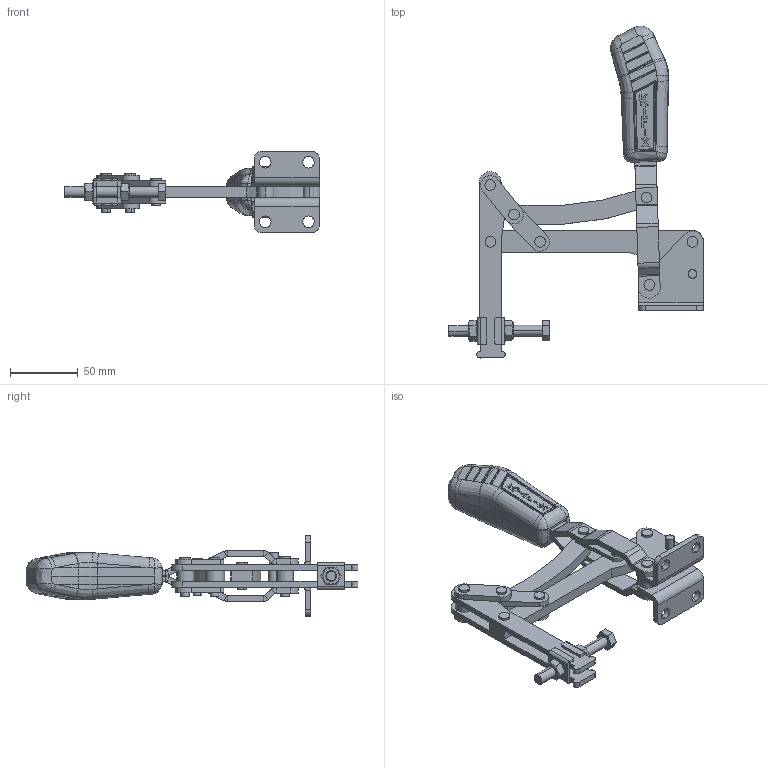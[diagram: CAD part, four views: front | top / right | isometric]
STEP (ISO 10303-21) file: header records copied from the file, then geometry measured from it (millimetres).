
FILE_DESCRIPTION (( 'STEP AP203' ), '1' );
FILE_NAME ('KF-011 DS A.STEP', '2014-09-05T12:24:26', ( 'Ricardo' ), ( '' ), 'SwSTEP 2.0', 'SolidWorks 2013', '' );
FILE_SCHEMA (( 'CONFIG_CONTROL_DESIGN' ));
Length unit declared in the file: millimetre
Products named in the file (19): 3670000129; 04.20002; 3670000067; 05.20005; 11.50002; 03.15035; 12.50003; 08.10094; 02.12009_Esquerda; 14.10001; 15.10132; 01.10013; KF-011 DS A; 20.10006; 02.12009_Direita; 3670000061; 08.10095; 3670000073; 07.60002
Assembly tree (31 placements, depth 2):
  KF-011 DS A
    02.12009_Esquerda
    01.10013  x2
    02.12009_Direita
    08.10095  x2
    07.60002
    04.20002
    05.20005  x2
    03.15035
    08.10094  x4
    15.10132
    20.10006  x2
    3670000061  x3
    3670000073  x3
    3670000129
    3670000067
    11.50002  x2
    12.50003
    14.10001  x2
Bounding box: 189.21 x 245.85 x 60 mm (x, y, z)
Volume: 209566.2 mm3; surface area: 93004.5 mm2
Topology: 31 solids, 31 shells, 861 faces, 2053 edges, 1273 vertices
Faces by surface type: plane 355, cylinder 264, bspline 157, sphere 52, cone 30, torus 3
Entity records: 25925 total; most frequent: CARTESIAN_POINT 9138, ORIENTED_EDGE 3208, DIRECTION 2665, EDGE_CURVE 1604, AXIS2_PLACEMENT_3D 1023, VERTEX_POINT 1003, EDGE_LOOP 747, FACE_OUTER_BOUND 664
